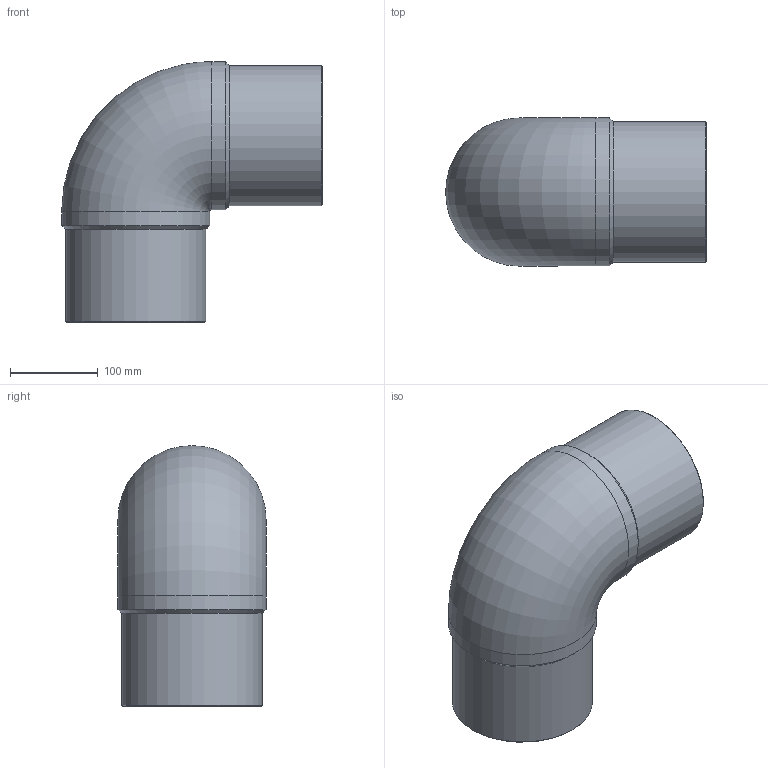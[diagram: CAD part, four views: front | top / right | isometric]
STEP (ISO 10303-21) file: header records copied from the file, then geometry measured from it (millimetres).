
FILE_DESCRIPTION(/* description */ ('Unknown'),/* implementation_level */ '2;1');
FILE_NAME(/* name */ 'G9P160B',/* time_stamp */ '2021-11-15T12:32:00+01:00',/* author */ ('Unknown'),/* organization */ ('Unknown'),/* preprocessor_version */ 'ST-DEVELOPER v16.7',/* originating_system */ 'Solid Edge',/* authorisation */ 'Unknown');
FILE_SCHEMA (('AUTOMOTIVE_DESIGN {1 0 10303 214 3 1 1}'));
Length unit declared in the file: millimetre
Products named in the file (1): G9P160B
Bounding box: 297.5 x 169 x 297.5 mm (x, y, z)
Volume: 2182513.1 mm3; surface area: 383454.2 mm2
Topology: 1 solids, 1 shells, 14 faces, 34 edges, 22 vertices
Faces by surface type: cylinder 6, cone 4, plane 2, torus 2
Full cylindrical faces by diameter (mm): 141 x2, 160 x2, 169 x2
Entity records: 374 total; most frequent: CARTESIAN_POINT 74, DIRECTION 60, ORIENTED_EDGE 38, AXIS2_PLACEMENT_3D 30, EDGE_LOOP 27, FACE_BOUND 27, EDGE_CURVE 19, VERTEX_POINT 18
